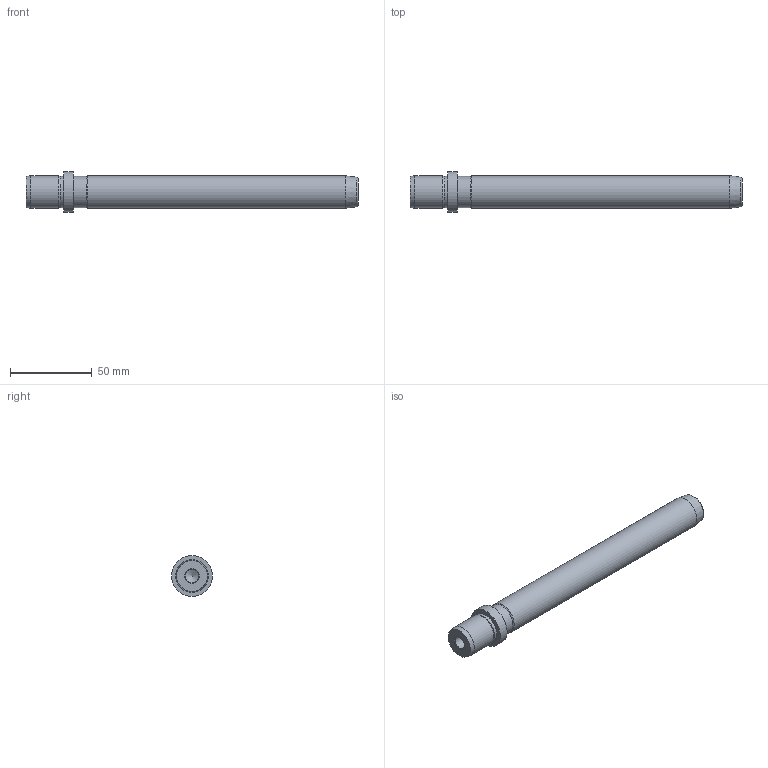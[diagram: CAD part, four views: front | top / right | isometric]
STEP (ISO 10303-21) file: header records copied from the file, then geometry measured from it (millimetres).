
FILE_DESCRIPTION(/* description */ ('Impex Ready, www.impex-ready.pl'),/* implementation_level */ '2;1');
FILE_NAME(/* name */ 'C:\Users\VIKKY\Nextcloud\SM\projekt 10 - części na stronę internetową\Pliki_3D_new\262 CEAQ Słup\262_CEAQ_STEP\CEAQ20180.ipt.step',/* time_stamp */ '2021-12-06T13:40:57+03:00',/* author */ ('SM'),/* organization */ (''),/* preprocessor_version */ 'ST-DEVELOPER v18.1',/* originating_system */ 'Autodesk Inventor 2021',/* authorisation */ '');
FILE_SCHEMA (('AUTOMOTIVE_DESIGN { 1 0 10303 214 3 1 1 }'));
Length unit declared in the file: millimetre
Products named in the file (1): CEAQ20180
Bounding box: 203 x 25 x 25 mm (x, y, z)
Volume: 61519.1 mm3; surface area: 15050.8 mm2
Topology: 1 solids, 1 shells, 20 faces, 38 edges, 22 vertices
Faces by surface type: cone 8, cylinder 7, plane 4, torus 1
Full cylindrical faces by diameter (mm): 8 x2, 19 x2, 20 x2, 25 x1
Entity records: 590 total; most frequent: DIRECTION 99, CARTESIAN_POINT 79, ORIENTED_EDGE 72, AXIS2_PLACEMENT_3D 42, EDGE_CURVE 36, EDGE_LOOP 24, VERTEX_POINT 22, CIRCLE 21
